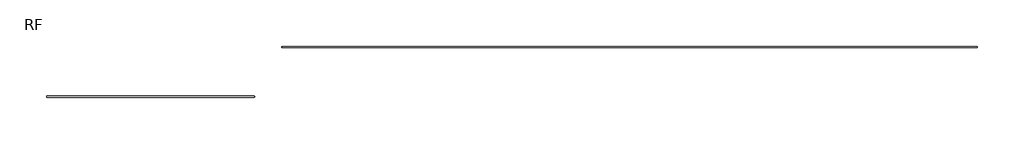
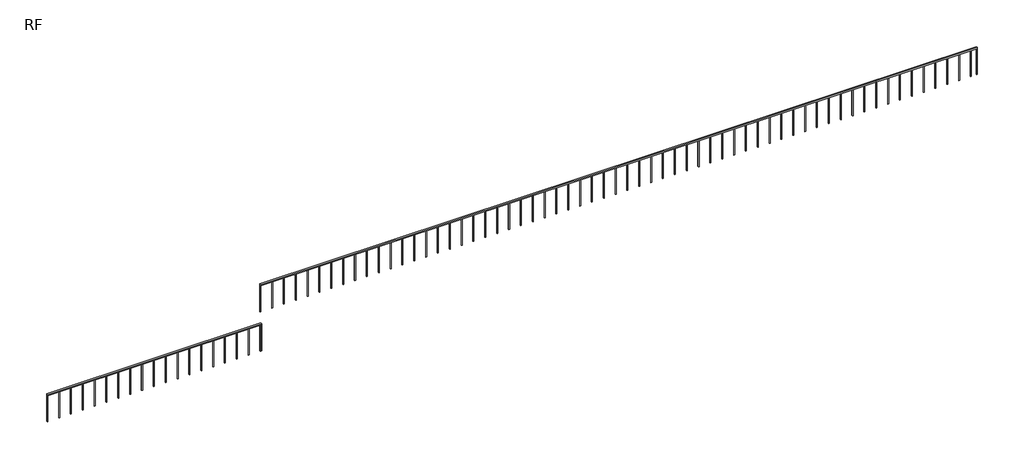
# One storey: 2 railings.
"""IFC4 building model written with IfcOpenShell, lengths in millimetres."""

from ifc_helpers import new_model, si_unit, frame, origin, place, context, project, spatial, polyline, outline, extrude, element, save

model = new_model("IFC4")

# Units and contexts
model_context = context("Model", 3, world=origin())
ifc_project = project(units=[si_unit("LENGTHUNIT", "METRE", prefix="MILLI")], contexts=[model_context])

# Site, building, storey
site = spatial("IfcSite", under=ifc_project)
building = spatial("IfcBuilding", under=site)
storey = spatial("IfcBuildingStorey", under=building, Name="RF", Elevation=41400.0)

# Railings
placement = place(None, origin())
element("IfcRailing", 1, ObjectType="1100mm", at=placement, inside=storey, context=model_context, shape_type="SweptSolid", body=[
    extrude(outline(polyline([(1540.8689947, -25680.4253081), (1540.8689947, -25630.4253081), (28760.8689947, -25630.4253081), (28760.8689947, -25680.4253081), (1540.8689947, -25680.4253081)])), frame((0.0, 0.0, 37950.0), z_axis=(0.0, 0.0, 1.0), x_axis=(1.0, 0.0, 0.0)), (0.0, 0.0, 1.0), 50.0),
    extrude(outline(polyline([(28528.3689947, -25667.9253081), (28528.3689947, -25642.9253081), (28553.3689947, -25642.9253081), (28553.3689947, -25667.9253081), (28528.3689947, -25667.9253081)])), frame((0.0, 0.0, 36900.0), z_axis=(0.0, 0.0, 1.0), x_axis=(1.0, 0.0, 0.0)), (0.0, 0.0, 1.0), 1050.0),
    extrude(outline(polyline([(28078.3689947, -25667.9253081), (28078.3689947, -25642.9253081), (28103.3689947, -25642.9253081), (28103.3689947, -25667.9253081), (28078.3689947, -25667.9253081)])), frame((0.0, 0.0, 36900.0), z_axis=(0.0, 0.0, 1.0), x_axis=(1.0, 0.0, 0.0)), (0.0, 0.0, 1.0), 1050.0),
    extrude(outline(polyline([(27628.3689947, -25667.9253081), (27628.3689947, -25642.9253081), (27653.3689947, -25642.9253081), (27653.3689947, -25667.9253081), (27628.3689947, -25667.9253081)])), frame((0.0, 0.0, 36900.0), z_axis=(0.0, 0.0, 1.0), x_axis=(1.0, 0.0, 0.0)), (0.0, 0.0, 1.0), 1050.0),
    extrude(outline(polyline([(27178.3689947, -25667.9253081), (27178.3689947, -25642.9253081), (27203.3689947, -25642.9253081), (27203.3689947, -25667.9253081), (27178.3689947, -25667.9253081)])), frame((0.0, 0.0, 36900.0), z_axis=(0.0, 0.0, 1.0), x_axis=(1.0, 0.0, 0.0)), (0.0, 0.0, 1.0), 1050.0),
    extrude(outline(polyline([(26728.3689947, -25667.9253081), (26728.3689947, -25642.9253081), (26753.3689947, -25642.9253081), (26753.3689947, -25667.9253081), (26728.3689947, -25667.9253081)])), frame((0.0, 0.0, 36900.0), z_axis=(0.0, 0.0, 1.0), x_axis=(1.0, 0.0, 0.0)), (0.0, 0.0, 1.0), 1050.0),
    extrude(outline(polyline([(26278.3689947, -25667.9253081), (26278.3689947, -25642.9253081), (26303.3689947, -25642.9253081), (26303.3689947, -25667.9253081), (26278.3689947, -25667.9253081)])), frame((0.0, 0.0, 36900.0), z_axis=(0.0, 0.0, 1.0), x_axis=(1.0, 0.0, 0.0)), (0.0, 0.0, 1.0), 1050.0),
    extrude(outline(polyline([(25828.3689947, -25667.9253081), (25828.3689947, -25642.9253081), (25853.3689947, -25642.9253081), (25853.3689947, -25667.9253081), (25828.3689947, -25667.9253081)])), frame((0.0, 0.0, 36900.0), z_axis=(0.0, 0.0, 1.0), x_axis=(1.0, 0.0, 0.0)), (0.0, 0.0, 1.0), 1050.0),
    extrude(outline(polyline([(25378.3689947, -25667.9253081), (25378.3689947, -25642.9253081), (25403.3689947, -25642.9253081), (25403.3689947, -25667.9253081), (25378.3689947, -25667.9253081)])), frame((0.0, 0.0, 36900.0), z_axis=(0.0, 0.0, 1.0), x_axis=(1.0, 0.0, 0.0)), (0.0, 0.0, 1.0), 1050.0),
    extrude(outline(polyline([(24928.3689947, -25667.9253081), (24928.3689947, -25642.9253081), (24953.3689947, -25642.9253081), (24953.3689947, -25667.9253081), (24928.3689947, -25667.9253081)])), frame((0.0, 0.0, 36900.0), z_axis=(0.0, 0.0, 1.0), x_axis=(1.0, 0.0, 0.0)), (0.0, 0.0, 1.0), 1050.0),
    extrude(outline(polyline([(24478.3689947, -25667.9253081), (24478.3689947, -25642.9253081), (24503.3689947, -25642.9253081), (24503.3689947, -25667.9253081), (24478.3689947, -25667.9253081)])), frame((0.0, 0.0, 36900.0), z_axis=(0.0, 0.0, 1.0), x_axis=(1.0, 0.0, 0.0)), (0.0, 0.0, 1.0), 1050.0),
    extrude(outline(polyline([(24028.3689947, -25667.9253081), (24028.3689947, -25642.9253081), (24053.3689947, -25642.9253081), (24053.3689947, -25667.9253081), (24028.3689947, -25667.9253081)])), frame((0.0, 0.0, 36900.0), z_axis=(0.0, 0.0, 1.0), x_axis=(1.0, 0.0, 0.0)), (0.0, 0.0, 1.0), 1050.0),
    extrude(outline(polyline([(23578.3689947, -25667.9253081), (23578.3689947, -25642.9253081), (23603.3689947, -25642.9253081), (23603.3689947, -25667.9253081), (23578.3689947, -25667.9253081)])), frame((0.0, 0.0, 36900.0), z_axis=(0.0, 0.0, 1.0), x_axis=(1.0, 0.0, 0.0)), (0.0, 0.0, 1.0), 1050.0),
    extrude(outline(polyline([(23128.3689947, -25667.9253081), (23128.3689947, -25642.9253081), (23153.3689947, -25642.9253081), (23153.3689947, -25667.9253081), (23128.3689947, -25667.9253081)])), frame((0.0, 0.0, 36900.0), z_axis=(0.0, 0.0, 1.0), x_axis=(1.0, 0.0, 0.0)), (0.0, 0.0, 1.0), 1050.0),
    extrude(outline(polyline([(22678.3689947, -25667.9253081), (22678.3689947, -25642.9253081), (22703.3689947, -25642.9253081), (22703.3689947, -25667.9253081), (22678.3689947, -25667.9253081)])), frame((0.0, 0.0, 36900.0), z_axis=(0.0, 0.0, 1.0), x_axis=(1.0, 0.0, 0.0)), (0.0, 0.0, 1.0), 1050.0),
    extrude(outline(polyline([(22228.3689947, -25667.9253081), (22228.3689947, -25642.9253081), (22253.3689947, -25642.9253081), (22253.3689947, -25667.9253081), (22228.3689947, -25667.9253081)])), frame((0.0, 0.0, 36900.0), z_axis=(0.0, 0.0, 1.0), x_axis=(1.0, 0.0, 0.0)), (0.0, 0.0, 1.0), 1050.0),
    extrude(outline(polyline([(21778.3689947, -25667.9253081), (21778.3689947, -25642.9253081), (21803.3689947, -25642.9253081), (21803.3689947, -25667.9253081), (21778.3689947, -25667.9253081)])), frame((0.0, 0.0, 36900.0), z_axis=(0.0, 0.0, 1.0), x_axis=(1.0, 0.0, 0.0)), (0.0, 0.0, 1.0), 1050.0),
    extrude(outline(polyline([(21328.3689947, -25667.9253081), (21328.3689947, -25642.9253081), (21353.3689947, -25642.9253081), (21353.3689947, -25667.9253081), (21328.3689947, -25667.9253081)])), frame((0.0, 0.0, 36900.0), z_axis=(0.0, 0.0, 1.0), x_axis=(1.0, 0.0, 0.0)), (0.0, 0.0, 1.0), 1050.0),
    extrude(outline(polyline([(20878.3689947, -25667.9253081), (20878.3689947, -25642.9253081), (20903.3689947, -25642.9253081), (20903.3689947, -25667.9253081), (20878.3689947, -25667.9253081)])), frame((0.0, 0.0, 36900.0), z_axis=(0.0, 0.0, 1.0), x_axis=(1.0, 0.0, 0.0)), (0.0, 0.0, 1.0), 1050.0),
    extrude(outline(polyline([(20428.3689947, -25667.9253081), (20428.3689947, -25642.9253081), (20453.3689947, -25642.9253081), (20453.3689947, -25667.9253081), (20428.3689947, -25667.9253081)])), frame((0.0, 0.0, 36900.0), z_axis=(0.0, 0.0, 1.0), x_axis=(1.0, 0.0, 0.0)), (0.0, 0.0, 1.0), 1050.0),
    extrude(outline(polyline([(19978.3689947, -25667.9253081), (19978.3689947, -25642.9253081), (20003.3689947, -25642.9253081), (20003.3689947, -25667.9253081), (19978.3689947, -25667.9253081)])), frame((0.0, 0.0, 36900.0), z_axis=(0.0, 0.0, 1.0), x_axis=(1.0, 0.0, 0.0)), (0.0, 0.0, 1.0), 1050.0),
    extrude(outline(polyline([(19528.3689947, -25667.9253081), (19528.3689947, -25642.9253081), (19553.3689947, -25642.9253081), (19553.3689947, -25667.9253081), (19528.3689947, -25667.9253081)])), frame((0.0, 0.0, 36900.0), z_axis=(0.0, 0.0, 1.0), x_axis=(1.0, 0.0, 0.0)), (0.0, 0.0, 1.0), 1050.0),
    extrude(outline(polyline([(19078.3689947, -25667.9253081), (19078.3689947, -25642.9253081), (19103.3689947, -25642.9253081), (19103.3689947, -25667.9253081), (19078.3689947, -25667.9253081)])), frame((0.0, 0.0, 36900.0), z_axis=(0.0, 0.0, 1.0), x_axis=(1.0, 0.0, 0.0)), (0.0, 0.0, 1.0), 1050.0),
    extrude(outline(polyline([(18628.3689947, -25667.9253081), (18628.3689947, -25642.9253081), (18653.3689947, -25642.9253081), (18653.3689947, -25667.9253081), (18628.3689947, -25667.9253081)])), frame((0.0, 0.0, 36900.0), z_axis=(0.0, 0.0, 1.0), x_axis=(1.0, 0.0, 0.0)), (0.0, 0.0, 1.0), 1050.0),
    extrude(outline(polyline([(18178.3689947, -25667.9253081), (18178.3689947, -25642.9253081), (18203.3689947, -25642.9253081), (18203.3689947, -25667.9253081), (18178.3689947, -25667.9253081)])), frame((0.0, 0.0, 36900.0), z_axis=(0.0, 0.0, 1.0), x_axis=(1.0, 0.0, 0.0)), (0.0, 0.0, 1.0), 1050.0),
    extrude(outline(polyline([(17728.3689947, -25667.9253081), (17728.3689947, -25642.9253081), (17753.3689947, -25642.9253081), (17753.3689947, -25667.9253081), (17728.3689947, -25667.9253081)])), frame((0.0, 0.0, 36900.0), z_axis=(0.0, 0.0, 1.0), x_axis=(1.0, 0.0, 0.0)), (0.0, 0.0, 1.0), 1050.0),
    extrude(outline(polyline([(17278.3689947, -25667.9253081), (17278.3689947, -25642.9253081), (17303.3689947, -25642.9253081), (17303.3689947, -25667.9253081), (17278.3689947, -25667.9253081)])), frame((0.0, 0.0, 36900.0), z_axis=(0.0, 0.0, 1.0), x_axis=(1.0, 0.0, 0.0)), (0.0, 0.0, 1.0), 1050.0),
    extrude(outline(polyline([(16828.3689947, -25667.9253081), (16828.3689947, -25642.9253081), (16853.3689947, -25642.9253081), (16853.3689947, -25667.9253081), (16828.3689947, -25667.9253081)])), frame((0.0, 0.0, 36900.0), z_axis=(0.0, 0.0, 1.0), x_axis=(1.0, 0.0, 0.0)), (0.0, 0.0, 1.0), 1050.0),
    extrude(outline(polyline([(16378.3689947, -25667.9253081), (16378.3689947, -25642.9253081), (16403.3689947, -25642.9253081), (16403.3689947, -25667.9253081), (16378.3689947, -25667.9253081)])), frame((0.0, 0.0, 36900.0), z_axis=(0.0, 0.0, 1.0), x_axis=(1.0, 0.0, 0.0)), (0.0, 0.0, 1.0), 1050.0),
    extrude(outline(polyline([(15928.3689947, -25667.9253081), (15928.3689947, -25642.9253081), (15953.3689947, -25642.9253081), (15953.3689947, -25667.9253081), (15928.3689947, -25667.9253081)])), frame((0.0, 0.0, 36900.0), z_axis=(0.0, 0.0, 1.0), x_axis=(1.0, 0.0, 0.0)), (0.0, 0.0, 1.0), 1050.0),
    extrude(outline(polyline([(15478.3689947, -25667.9253081), (15478.3689947, -25642.9253081), (15503.3689947, -25642.9253081), (15503.3689947, -25667.9253081), (15478.3689947, -25667.9253081)])), frame((0.0, 0.0, 36900.0), z_axis=(0.0, 0.0, 1.0), x_axis=(1.0, 0.0, 0.0)), (0.0, 0.0, 1.0), 1050.0),
    extrude(outline(polyline([(15028.3689947, -25667.9253081), (15028.3689947, -25642.9253081), (15053.3689947, -25642.9253081), (15053.3689947, -25667.9253081), (15028.3689947, -25667.9253081)])), frame((0.0, 0.0, 36900.0), z_axis=(0.0, 0.0, 1.0), x_axis=(1.0, 0.0, 0.0)), (0.0, 0.0, 1.0), 1050.0),
    extrude(outline(polyline([(14578.3689947, -25667.9253081), (14578.3689947, -25642.9253081), (14603.3689947, -25642.9253081), (14603.3689947, -25667.9253081), (14578.3689947, -25667.9253081)])), frame((0.0, 0.0, 36900.0), z_axis=(0.0, 0.0, 1.0), x_axis=(1.0, 0.0, 0.0)), (0.0, 0.0, 1.0), 1050.0),
    extrude(outline(polyline([(14128.3689947, -25667.9253081), (14128.3689947, -25642.9253081), (14153.3689947, -25642.9253081), (14153.3689947, -25667.9253081), (14128.3689947, -25667.9253081)])), frame((0.0, 0.0, 36900.0), z_axis=(0.0, 0.0, 1.0), x_axis=(1.0, 0.0, 0.0)), (0.0, 0.0, 1.0), 1050.0),
    extrude(outline(polyline([(13678.3689947, -25667.9253081), (13678.3689947, -25642.9253081), (13703.3689947, -25642.9253081), (13703.3689947, -25667.9253081), (13678.3689947, -25667.9253081)])), frame((0.0, 0.0, 36900.0), z_axis=(0.0, 0.0, 1.0), x_axis=(1.0, 0.0, 0.0)), (0.0, 0.0, 1.0), 1050.0),
    extrude(outline(polyline([(13228.3689947, -25667.9253081), (13228.3689947, -25642.9253081), (13253.3689947, -25642.9253081), (13253.3689947, -25667.9253081), (13228.3689947, -25667.9253081)])), frame((0.0, 0.0, 36900.0), z_axis=(0.0, 0.0, 1.0), x_axis=(1.0, 0.0, 0.0)), (0.0, 0.0, 1.0), 1050.0),
    extrude(outline(polyline([(12778.3689947, -25667.9253081), (12778.3689947, -25642.9253081), (12803.3689947, -25642.9253081), (12803.3689947, -25667.9253081), (12778.3689947, -25667.9253081)])), frame((0.0, 0.0, 36900.0), z_axis=(0.0, 0.0, 1.0), x_axis=(1.0, 0.0, 0.0)), (0.0, 0.0, 1.0), 1050.0),
    extrude(outline(polyline([(12328.3689947, -25667.9253081), (12328.3689947, -25642.9253081), (12353.3689947, -25642.9253081), (12353.3689947, -25667.9253081), (12328.3689947, -25667.9253081)])), frame((0.0, 0.0, 36900.0), z_axis=(0.0, 0.0, 1.0), x_axis=(1.0, 0.0, 0.0)), (0.0, 0.0, 1.0), 1050.0),
    extrude(outline(polyline([(11878.3689947, -25667.9253081), (11878.3689947, -25642.9253081), (11903.3689947, -25642.9253081), (11903.3689947, -25667.9253081), (11878.3689947, -25667.9253081)])), frame((0.0, 0.0, 36900.0), z_axis=(0.0, 0.0, 1.0), x_axis=(1.0, 0.0, 0.0)), (0.0, 0.0, 1.0), 1050.0),
    extrude(outline(polyline([(11428.3689947, -25667.9253081), (11428.3689947, -25642.9253081), (11453.3689947, -25642.9253081), (11453.3689947, -25667.9253081), (11428.3689947, -25667.9253081)])), frame((0.0, 0.0, 36900.0), z_axis=(0.0, 0.0, 1.0), x_axis=(1.0, 0.0, 0.0)), (0.0, 0.0, 1.0), 1050.0),
    extrude(outline(polyline([(10978.3689947, -25667.9253081), (10978.3689947, -25642.9253081), (11003.3689947, -25642.9253081), (11003.3689947, -25667.9253081), (10978.3689947, -25667.9253081)])), frame((0.0, 0.0, 36900.0), z_axis=(0.0, 0.0, 1.0), x_axis=(1.0, 0.0, 0.0)), (0.0, 0.0, 1.0), 1050.0),
    extrude(outline(polyline([(10528.3689947, -25667.9253081), (10528.3689947, -25642.9253081), (10553.3689947, -25642.9253081), (10553.3689947, -25667.9253081), (10528.3689947, -25667.9253081)])), frame((0.0, 0.0, 36900.0), z_axis=(0.0, 0.0, 1.0), x_axis=(1.0, 0.0, 0.0)), (0.0, 0.0, 1.0), 1050.0),
    extrude(outline(polyline([(10078.3689947, -25667.9253081), (10078.3689947, -25642.9253081), (10103.3689947, -25642.9253081), (10103.3689947, -25667.9253081), (10078.3689947, -25667.9253081)])), frame((0.0, 0.0, 36900.0), z_axis=(0.0, 0.0, 1.0), x_axis=(1.0, 0.0, 0.0)), (0.0, 0.0, 1.0), 1050.0),
    extrude(outline(polyline([(9628.3689947, -25667.9253081), (9628.3689947, -25642.9253081), (9653.3689947, -25642.9253081), (9653.3689947, -25667.9253081), (9628.3689947, -25667.9253081)])), frame((0.0, 0.0, 36900.0), z_axis=(0.0, 0.0, 1.0), x_axis=(1.0, 0.0, 0.0)), (0.0, 0.0, 1.0), 1050.0),
    extrude(outline(polyline([(9178.3689947, -25667.9253081), (9178.3689947, -25642.9253081), (9203.3689947, -25642.9253081), (9203.3689947, -25667.9253081), (9178.3689947, -25667.9253081)])), frame((0.0, 0.0, 36900.0), z_axis=(0.0, 0.0, 1.0), x_axis=(1.0, 0.0, 0.0)), (0.0, 0.0, 1.0), 1050.0),
    extrude(outline(polyline([(8728.3689947, -25667.9253081), (8728.3689947, -25642.9253081), (8753.3689947, -25642.9253081), (8753.3689947, -25667.9253081), (8728.3689947, -25667.9253081)])), frame((0.0, 0.0, 36900.0), z_axis=(0.0, 0.0, 1.0), x_axis=(1.0, 0.0, 0.0)), (0.0, 0.0, 1.0), 1050.0),
    extrude(outline(polyline([(8278.3689947, -25667.9253081), (8278.3689947, -25642.9253081), (8303.3689947, -25642.9253081), (8303.3689947, -25667.9253081), (8278.3689947, -25667.9253081)])), frame((0.0, 0.0, 36900.0), z_axis=(0.0, 0.0, 1.0), x_axis=(1.0, 0.0, 0.0)), (0.0, 0.0, 1.0), 1050.0),
    extrude(outline(polyline([(7828.3689947, -25667.9253081), (7828.3689947, -25642.9253081), (7853.3689947, -25642.9253081), (7853.3689947, -25667.9253081), (7828.3689947, -25667.9253081)])), frame((0.0, 0.0, 36900.0), z_axis=(0.0, 0.0, 1.0), x_axis=(1.0, 0.0, 0.0)), (0.0, 0.0, 1.0), 1050.0),
    extrude(outline(polyline([(7378.3689947, -25667.9253081), (7378.3689947, -25642.9253081), (7403.3689947, -25642.9253081), (7403.3689947, -25667.9253081), (7378.3689947, -25667.9253081)])), frame((0.0, 0.0, 36900.0), z_axis=(0.0, 0.0, 1.0), x_axis=(1.0, 0.0, 0.0)), (0.0, 0.0, 1.0), 1050.0),
    extrude(outline(polyline([(6928.3689947, -25667.9253081), (6928.3689947, -25642.9253081), (6953.3689947, -25642.9253081), (6953.3689947, -25667.9253081), (6928.3689947, -25667.9253081)])), frame((0.0, 0.0, 36900.0), z_axis=(0.0, 0.0, 1.0), x_axis=(1.0, 0.0, 0.0)), (0.0, 0.0, 1.0), 1050.0),
    extrude(outline(polyline([(6478.3689947, -25667.9253081), (6478.3689947, -25642.9253081), (6503.3689947, -25642.9253081), (6503.3689947, -25667.9253081), (6478.3689947, -25667.9253081)])), frame((0.0, 0.0, 36900.0), z_axis=(0.0, 0.0, 1.0), x_axis=(1.0, 0.0, 0.0)), (0.0, 0.0, 1.0), 1050.0),
    extrude(outline(polyline([(6028.3689947, -25667.9253081), (6028.3689947, -25642.9253081), (6053.3689947, -25642.9253081), (6053.3689947, -25667.9253081), (6028.3689947, -25667.9253081)])), frame((0.0, 0.0, 36900.0), z_axis=(0.0, 0.0, 1.0), x_axis=(1.0, 0.0, 0.0)), (0.0, 0.0, 1.0), 1050.0),
    extrude(outline(polyline([(5578.3689947, -25667.9253081), (5578.3689947, -25642.9253081), (5603.3689947, -25642.9253081), (5603.3689947, -25667.9253081), (5578.3689947, -25667.9253081)])), frame((0.0, 0.0, 36900.0), z_axis=(0.0, 0.0, 1.0), x_axis=(1.0, 0.0, 0.0)), (0.0, 0.0, 1.0), 1050.0),
    extrude(outline(polyline([(5128.3689947, -25667.9253081), (5128.3689947, -25642.9253081), (5153.3689947, -25642.9253081), (5153.3689947, -25667.9253081), (5128.3689947, -25667.9253081)])), frame((0.0, 0.0, 36900.0), z_axis=(0.0, 0.0, 1.0), x_axis=(1.0, 0.0, 0.0)), (0.0, 0.0, 1.0), 1050.0),
    extrude(outline(polyline([(4678.3689947, -25667.9253081), (4678.3689947, -25642.9253081), (4703.3689947, -25642.9253081), (4703.3689947, -25667.9253081), (4678.3689947, -25667.9253081)])), frame((0.0, 0.0, 36900.0), z_axis=(0.0, 0.0, 1.0), x_axis=(1.0, 0.0, 0.0)), (0.0, 0.0, 1.0), 1050.0),
    extrude(outline(polyline([(4228.3689947, -25667.9253081), (4228.3689947, -25642.9253081), (4253.3689947, -25642.9253081), (4253.3689947, -25667.9253081), (4228.3689947, -25667.9253081)])), frame((0.0, 0.0, 36900.0), z_axis=(0.0, 0.0, 1.0), x_axis=(1.0, 0.0, 0.0)), (0.0, 0.0, 1.0), 1050.0),
    extrude(outline(polyline([(3778.3689947, -25667.9253081), (3778.3689947, -25642.9253081), (3803.3689947, -25642.9253081), (3803.3689947, -25667.9253081), (3778.3689947, -25667.9253081)])), frame((0.0, 0.0, 36900.0), z_axis=(0.0, 0.0, 1.0), x_axis=(1.0, 0.0, 0.0)), (0.0, 0.0, 1.0), 1050.0),
    extrude(outline(polyline([(3328.3689947, -25667.9253081), (3328.3689947, -25642.9253081), (3353.3689947, -25642.9253081), (3353.3689947, -25667.9253081), (3328.3689947, -25667.9253081)])), frame((0.0, 0.0, 36900.0), z_axis=(0.0, 0.0, 1.0), x_axis=(1.0, 0.0, 0.0)), (0.0, 0.0, 1.0), 1050.0),
    extrude(outline(polyline([(2878.3689947, -25667.9253081), (2878.3689947, -25642.9253081), (2903.3689947, -25642.9253081), (2903.3689947, -25667.9253081), (2878.3689947, -25667.9253081)])), frame((0.0, 0.0, 36900.0), z_axis=(0.0, 0.0, 1.0), x_axis=(1.0, 0.0, 0.0)), (0.0, 0.0, 1.0), 1050.0),
    extrude(outline(polyline([(2428.3689947, -25667.9253081), (2428.3689947, -25642.9253081), (2453.3689947, -25642.9253081), (2453.3689947, -25667.9253081), (2428.3689947, -25667.9253081)])), frame((0.0, 0.0, 36900.0), z_axis=(0.0, 0.0, 1.0), x_axis=(1.0, 0.0, 0.0)), (0.0, 0.0, 1.0), 1050.0),
    extrude(outline(polyline([(1978.3689947, -25667.9253081), (1978.3689947, -25642.9253081), (2003.3689947, -25642.9253081), (2003.3689947, -25667.9253081), (1978.3689947, -25667.9253081)])), frame((0.0, 0.0, 36900.0), z_axis=(0.0, 0.0, 1.0), x_axis=(1.0, 0.0, 0.0)), (0.0, 0.0, 1.0), 1050.0),
    extrude(outline(polyline([(28748.3689947, -25667.9253081), (28748.3689947, -25642.9253081), (28773.3689947, -25642.9253081), (28773.3689947, -25667.9253081), (28748.3689947, -25667.9253081)])), frame((0.0, 0.0, 36900.0), z_axis=(0.0, 0.0, 1.0), x_axis=(1.0, 0.0, 0.0)), (0.0, 0.0, 1.0), 1050.0),
    extrude(outline(polyline([(1528.3689947, -25667.9253081), (1528.3689947, -25642.9253081), (1553.3689947, -25642.9253081), (1553.3689947, -25667.9253081), (1528.3689947, -25667.9253081)])), frame((0.0, 0.0, 36900.0), z_axis=(0.0, 0.0, 1.0), x_axis=(1.0, 0.0, 0.0)), (0.0, 0.0, 1.0), 1050.0),
])
element("IfcRailing", 2, ObjectType="1100mm", at=placement, inside=storey, context=model_context, shape_type="SweptSolid", body=[
    extrude(outline(polyline([(-7679.1310053, -27634.9049261), (-7679.1310053, -27584.9049261), (445.8689947, -27584.9049261), (445.8689947, -27634.9049261), (-7679.1310053, -27634.9049261)])), frame((0.0, 0.0, 37950.0), z_axis=(0.0, 0.0, 1.0), x_axis=(1.0, 0.0, 0.0)), (0.0, 0.0, 1.0), 50.0),
    extrude(outline(polyline([(408.3689947, -27622.4049261), (408.3689947, -27597.4049261), (433.3689947, -27597.4049261), (433.3689947, -27622.4049261), (408.3689947, -27622.4049261)])), frame((0.0, 0.0, 36900.0), z_axis=(0.0, 0.0, 1.0), x_axis=(1.0, 0.0, 0.0)), (0.0, 0.0, 1.0), 1050.0),
    extrude(outline(polyline([(-41.6310053, -27622.4049261), (-41.6310053, -27597.4049261), (-16.6310053, -27597.4049261), (-16.6310053, -27622.4049261), (-41.6310053, -27622.4049261)])), frame((0.0, 0.0, 36900.0), z_axis=(0.0, 0.0, 1.0), x_axis=(1.0, 0.0, 0.0)), (0.0, 0.0, 1.0), 1050.0),
    extrude(outline(polyline([(-491.6310053, -27622.4049261), (-491.6310053, -27597.4049261), (-466.6310053, -27597.4049261), (-466.6310053, -27622.4049261), (-491.6310053, -27622.4049261)])), frame((0.0, 0.0, 36900.0), z_axis=(0.0, 0.0, 1.0), x_axis=(1.0, 0.0, 0.0)), (0.0, 0.0, 1.0), 1050.0),
    extrude(outline(polyline([(-941.6310053, -27622.4049261), (-941.6310053, -27597.4049261), (-916.6310053, -27597.4049261), (-916.6310053, -27622.4049261), (-941.6310053, -27622.4049261)])), frame((0.0, 0.0, 36900.0), z_axis=(0.0, 0.0, 1.0), x_axis=(1.0, 0.0, 0.0)), (0.0, 0.0, 1.0), 1050.0),
    extrude(outline(polyline([(-1391.6310053, -27622.4049261), (-1391.6310053, -27597.4049261), (-1366.6310053, -27597.4049261), (-1366.6310053, -27622.4049261), (-1391.6310053, -27622.4049261)])), frame((0.0, 0.0, 36900.0), z_axis=(0.0, 0.0, 1.0), x_axis=(1.0, 0.0, 0.0)), (0.0, 0.0, 1.0), 1050.0),
    extrude(outline(polyline([(-1841.6310053, -27622.4049261), (-1841.6310053, -27597.4049261), (-1816.6310053, -27597.4049261), (-1816.6310053, -27622.4049261), (-1841.6310053, -27622.4049261)])), frame((0.0, 0.0, 36900.0), z_axis=(0.0, 0.0, 1.0), x_axis=(1.0, 0.0, 0.0)), (0.0, 0.0, 1.0), 1050.0),
    extrude(outline(polyline([(-2291.6310053, -27622.4049261), (-2291.6310053, -27597.4049261), (-2266.6310053, -27597.4049261), (-2266.6310053, -27622.4049261), (-2291.6310053, -27622.4049261)])), frame((0.0, 0.0, 36900.0), z_axis=(0.0, 0.0, 1.0), x_axis=(1.0, 0.0, 0.0)), (0.0, 0.0, 1.0), 1050.0),
    extrude(outline(polyline([(-2741.6310053, -27622.4049261), (-2741.6310053, -27597.4049261), (-2716.6310053, -27597.4049261), (-2716.6310053, -27622.4049261), (-2741.6310053, -27622.4049261)])), frame((0.0, 0.0, 36900.0), z_axis=(0.0, 0.0, 1.0), x_axis=(1.0, 0.0, 0.0)), (0.0, 0.0, 1.0), 1050.0),
    extrude(outline(polyline([(-3191.6310053, -27622.4049261), (-3191.6310053, -27597.4049261), (-3166.6310053, -27597.4049261), (-3166.6310053, -27622.4049261), (-3191.6310053, -27622.4049261)])), frame((0.0, 0.0, 36900.0), z_axis=(0.0, 0.0, 1.0), x_axis=(1.0, 0.0, 0.0)), (0.0, 0.0, 1.0), 1050.0),
    extrude(outline(polyline([(-3641.6310053, -27622.4049261), (-3641.6310053, -27597.4049261), (-3616.6310053, -27597.4049261), (-3616.6310053, -27622.4049261), (-3641.6310053, -27622.4049261)])), frame((0.0, 0.0, 36900.0), z_axis=(0.0, 0.0, 1.0), x_axis=(1.0, 0.0, 0.0)), (0.0, 0.0, 1.0), 1050.0),
    extrude(outline(polyline([(-4091.6310053, -27622.4049261), (-4091.6310053, -27597.4049261), (-4066.6310053, -27597.4049261), (-4066.6310053, -27622.4049261), (-4091.6310053, -27622.4049261)])), frame((0.0, 0.0, 36900.0), z_axis=(0.0, 0.0, 1.0), x_axis=(1.0, 0.0, 0.0)), (0.0, 0.0, 1.0), 1050.0),
    extrude(outline(polyline([(-4541.6310053, -27622.4049261), (-4541.6310053, -27597.4049261), (-4516.6310053, -27597.4049261), (-4516.6310053, -27622.4049261), (-4541.6310053, -27622.4049261)])), frame((0.0, 0.0, 36900.0), z_axis=(0.0, 0.0, 1.0), x_axis=(1.0, 0.0, 0.0)), (0.0, 0.0, 1.0), 1050.0),
    extrude(outline(polyline([(-4991.6310053, -27622.4049261), (-4991.6310053, -27597.4049261), (-4966.6310053, -27597.4049261), (-4966.6310053, -27622.4049261), (-4991.6310053, -27622.4049261)])), frame((0.0, 0.0, 36900.0), z_axis=(0.0, 0.0, 1.0), x_axis=(1.0, 0.0, 0.0)), (0.0, 0.0, 1.0), 1050.0),
    extrude(outline(polyline([(-5441.6310053, -27622.4049261), (-5441.6310053, -27597.4049261), (-5416.6310053, -27597.4049261), (-5416.6310053, -27622.4049261), (-5441.6310053, -27622.4049261)])), frame((0.0, 0.0, 36900.0), z_axis=(0.0, 0.0, 1.0), x_axis=(1.0, 0.0, 0.0)), (0.0, 0.0, 1.0), 1050.0),
    extrude(outline(polyline([(-5891.6310053, -27622.4049261), (-5891.6310053, -27597.4049261), (-5866.6310053, -27597.4049261), (-5866.6310053, -27622.4049261), (-5891.6310053, -27622.4049261)])), frame((0.0, 0.0, 36900.0), z_axis=(0.0, 0.0, 1.0), x_axis=(1.0, 0.0, 0.0)), (0.0, 0.0, 1.0), 1050.0),
    extrude(outline(polyline([(-6341.6310053, -27622.4049261), (-6341.6310053, -27597.4049261), (-6316.6310053, -27597.4049261), (-6316.6310053, -27622.4049261), (-6341.6310053, -27622.4049261)])), frame((0.0, 0.0, 36900.0), z_axis=(0.0, 0.0, 1.0), x_axis=(1.0, 0.0, 0.0)), (0.0, 0.0, 1.0), 1050.0),
    extrude(outline(polyline([(-6791.6310053, -27622.4049261), (-6791.6310053, -27597.4049261), (-6766.6310053, -27597.4049261), (-6766.6310053, -27622.4049261), (-6791.6310053, -27622.4049261)])), frame((0.0, 0.0, 36900.0), z_axis=(0.0, 0.0, 1.0), x_axis=(1.0, 0.0, 0.0)), (0.0, 0.0, 1.0), 1050.0),
    extrude(outline(polyline([(-7241.6310053, -27622.4049261), (-7241.6310053, -27597.4049261), (-7216.6310053, -27597.4049261), (-7216.6310053, -27622.4049261), (-7241.6310053, -27622.4049261)])), frame((0.0, 0.0, 36900.0), z_axis=(0.0, 0.0, 1.0), x_axis=(1.0, 0.0, 0.0)), (0.0, 0.0, 1.0), 1050.0),
    extrude(outline(polyline([(433.3689947, -27622.4049261), (433.3689947, -27597.4049261), (458.3689947, -27597.4049261), (458.3689947, -27622.4049261), (433.3689947, -27622.4049261)])), frame((0.0, 0.0, 36900.0), z_axis=(0.0, 0.0, 1.0), x_axis=(1.0, 0.0, 0.0)), (0.0, 0.0, 1.0), 1050.0),
    extrude(outline(polyline([(-7691.6310053, -27622.4049261), (-7691.6310053, -27597.4049261), (-7666.6310053, -27597.4049261), (-7666.6310053, -27622.4049261), (-7691.6310053, -27622.4049261)])), frame((0.0, 0.0, 36900.0), z_axis=(0.0, 0.0, 1.0), x_axis=(1.0, 0.0, 0.0)), (0.0, 0.0, 1.0), 1050.0),
])

save(model, "model.ifc")
